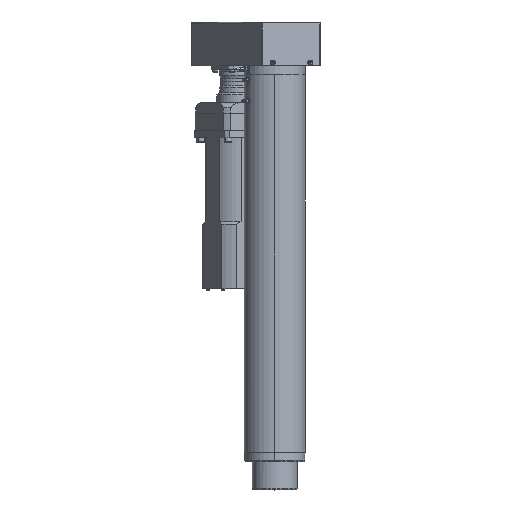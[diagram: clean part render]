
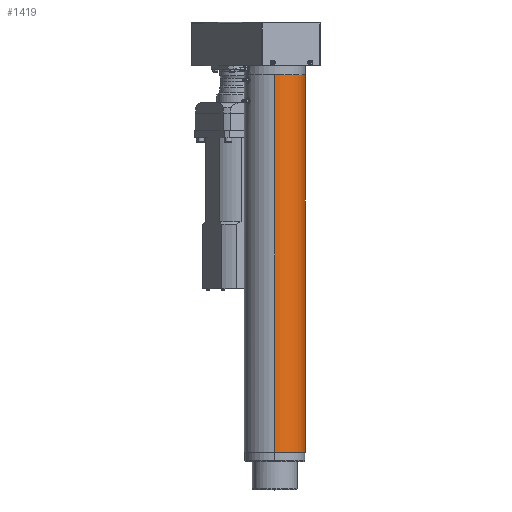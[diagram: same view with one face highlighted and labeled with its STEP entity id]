
A CAD part, top view. The second image highlights one B-rep face of the part: STEP entity #1419.
In plain terms, the highlighted cylindrical face has radius 64.5 mm (diameter 129 mm), a partial arc.
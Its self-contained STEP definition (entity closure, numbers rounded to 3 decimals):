
#1419 = ADVANCED_FACE ( 'NONE', ( #26969 ), #14435, .T. ) ;
#2214 = VERTEX_POINT ( 'NONE', #8783 ) ;
#2615 = CARTESIAN_POINT ( 'NONE',  ( 71.219, -178.379, 32.694 ) ) ;
#2953 = ORIENTED_EDGE ( 'NONE', *, *, #8513, .T. ) ;
#4245 = CIRCLE ( 'NONE', #15316, 64.5 ) ;
#6099 = CARTESIAN_POINT ( 'NONE',  ( 71.219, 622.121, 161.694 ) ) ;
#7553 = CIRCLE ( 'NONE', #45897, 64.5 ) ;
#7624 = VERTEX_POINT ( 'NONE', #6099 ) ;
#8513 = EDGE_CURVE ( 'NONE', #7624, #12356, #11318, .T. ) ;
#8783 = CARTESIAN_POINT ( 'NONE',  ( 71.219, 622.121, 32.694 ) ) ;
#10275 = EDGE_CURVE ( 'NONE', #2214, #23814, #28349, .T. ) ;
#11318 = LINE ( 'NONE', #30572, #33984 ) ;
#11947 = DIRECTION ( 'NONE',  ( 0., -1., 0. ) ) ;
#12356 = VERTEX_POINT ( 'NONE', #22834 ) ;
#12658 = ORIENTED_EDGE ( 'NONE', *, *, #23116, .T. ) ;
#14435 = CYLINDRICAL_SURFACE ( 'NONE', #48909, 64.5 ) ;
#15316 = AXIS2_PLACEMENT_3D ( 'NONE', #41233, #11947, #24994 ) ;
#20350 = EDGE_LOOP ( 'NONE', ( #12658, #2953, #33415, #37610 ) ) ;
#22834 = CARTESIAN_POINT ( 'NONE',  ( 71.219, -178.379, 161.694 ) ) ;
#23116 = EDGE_CURVE ( 'NONE', #2214, #7624, #7553, .T. ) ;
#23814 = VERTEX_POINT ( 'NONE', #2615 ) ;
#24533 = CARTESIAN_POINT ( 'NONE',  ( 71.219, -198.379, 97.194 ) ) ;
#24994 = DIRECTION ( 'NONE',  ( 0., 0., -1. ) ) ;
#26408 = CARTESIAN_POINT ( 'NONE',  ( 71.219, 622.121, 97.194 ) ) ;
#26969 = FACE_OUTER_BOUND ( 'NONE', #20350, .T. ) ;
#28349 = LINE ( 'NONE', #44555, #36075 ) ;
#30572 = CARTESIAN_POINT ( 'NONE',  ( 71.219, -198.379, 161.694 ) ) ;
#30820 = DIRECTION ( 'NONE',  ( 0., -1., 0. ) ) ;
#32996 = EDGE_CURVE ( 'NONE', #23814, #12356, #4245, .T. ) ;
#33103 = DIRECTION ( 'NONE',  ( 0., -1., 0. ) ) ;
#33415 = ORIENTED_EDGE ( 'NONE', *, *, #32996, .F. ) ;
#33984 = VECTOR ( 'NONE', #30820, 1000. ) ;
#36075 = VECTOR ( 'NONE', #47690, 1000. ) ;
#36266 = DIRECTION ( 'NONE',  ( 0., 0., -1. ) ) ;
#37610 = ORIENTED_EDGE ( 'NONE', *, *, #10275, .F. ) ;
#41233 = CARTESIAN_POINT ( 'NONE',  ( 71.219, -178.379, 97.194 ) ) ;
#44555 = CARTESIAN_POINT ( 'NONE',  ( 71.219, -198.379, 32.694 ) ) ;
#45897 = AXIS2_PLACEMENT_3D ( 'NONE', #26408, #51162, #51665 ) ;
#47690 = DIRECTION ( 'NONE',  ( 0., -1., 0. ) ) ;
#48909 = AXIS2_PLACEMENT_3D ( 'NONE', #24533, #33103, #36266 ) ;
#51162 = DIRECTION ( 'NONE',  ( 0., -1., 0. ) ) ;
#51665 = DIRECTION ( 'NONE',  ( 0., 0., -1. ) ) ;
